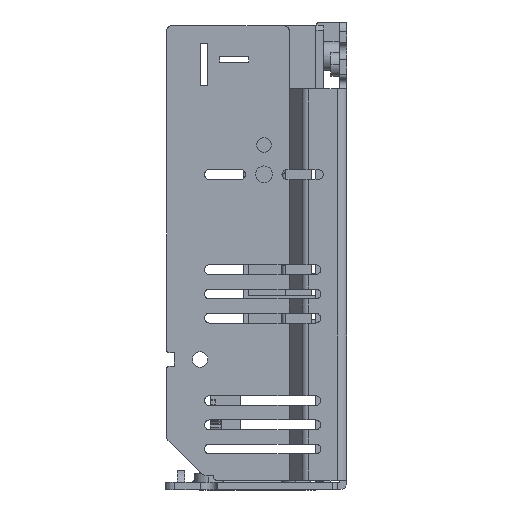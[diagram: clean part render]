
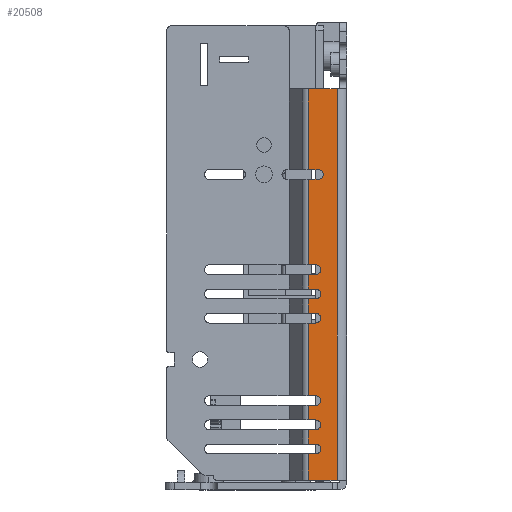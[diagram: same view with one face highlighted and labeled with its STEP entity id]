
A CAD part, left-side view. The second image highlights one B-rep face of the part: STEP entity #20508.
In plain terms, the highlighted planar face has unit normal (-1, 0, 0).
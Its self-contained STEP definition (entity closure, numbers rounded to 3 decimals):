
#2021=DIRECTION('',(0.,0.,1.));
#2022=VECTOR('',#2021,80.7);
#2023=CARTESIAN_POINT('',(-86.5,2.,-46.25));
#2024=LINE('',#2023,#2022);
#2305=DIRECTION('',(0.,1.,0.));
#2306=VECTOR('',#2305,2.055);
#2307=CARTESIAN_POINT('',(-86.5,5.9,17.8));
#2308=LINE('',#2307,#2306);
#2309=DIRECTION('',(0.,-1.,0.));
#2310=VECTOR('',#2309,5.955);
#2311=CARTESIAN_POINT('',(-86.5,7.955,34.45));
#2312=LINE('',#2311,#2310);
#2313=CARTESIAN_POINT('',(-86.5,6.4,-39.85));
#2314=DIRECTION('',(-1.,0.,0.));
#2315=DIRECTION('',(0.,0.,-1.));
#2316=AXIS2_PLACEMENT_3D('',#2313,#2314,#2315);
#2318=DIRECTION('',(0.,1.,0.));
#2319=VECTOR('',#2318,1.555);
#2320=CARTESIAN_POINT('',(-86.5,6.4,-38.85));
#2321=LINE('',#2320,#2319);
#2322=CARTESIAN_POINT('',(-86.5,6.4,-34.85));
#2323=DIRECTION('',(-1.,0.,0.));
#2324=DIRECTION('',(0.,0.,-1.));
#2325=AXIS2_PLACEMENT_3D('',#2322,#2323,#2324);
#2327=DIRECTION('',(0.,1.,0.));
#2328=VECTOR('',#2327,1.555);
#2329=CARTESIAN_POINT('',(-86.5,6.4,-33.85));
#2330=LINE('',#2329,#2328);
#2331=CARTESIAN_POINT('',(-86.5,6.4,-29.85));
#2332=DIRECTION('',(-1.,0.,0.));
#2333=DIRECTION('',(0.,0.,-1.));
#2334=AXIS2_PLACEMENT_3D('',#2331,#2332,#2333);
#2336=DIRECTION('',(0.,1.,0.));
#2337=VECTOR('',#2336,1.555);
#2338=CARTESIAN_POINT('',(-86.5,6.4,-28.85));
#2339=LINE('',#2338,#2337);
#2340=CARTESIAN_POINT('',(-86.5,6.4,-12.85));
#2341=DIRECTION('',(-1.,0.,0.));
#2342=DIRECTION('',(0.,0.,-1.));
#2343=AXIS2_PLACEMENT_3D('',#2340,#2341,#2342);
#2345=DIRECTION('',(0.,1.,0.));
#2346=VECTOR('',#2345,1.555);
#2347=CARTESIAN_POINT('',(-86.5,6.4,-11.85));
#2348=LINE('',#2347,#2346);
#2349=CARTESIAN_POINT('',(-86.5,6.4,-7.85));
#2350=DIRECTION('',(-1.,0.,0.));
#2351=DIRECTION('',(0.,0.,-1.));
#2352=AXIS2_PLACEMENT_3D('',#2349,#2350,#2351);
#2354=DIRECTION('',(0.,1.,0.));
#2355=VECTOR('',#2354,1.555);
#2356=CARTESIAN_POINT('',(-86.5,6.4,-6.85));
#2357=LINE('',#2356,#2355);
#2358=CARTESIAN_POINT('',(-86.5,6.4,-2.85));
#2359=DIRECTION('',(-1.,0.,0.));
#2360=DIRECTION('',(0.,0.,-1.));
#2361=AXIS2_PLACEMENT_3D('',#2358,#2359,#2360);
#2363=DIRECTION('',(0.,1.,0.));
#2364=VECTOR('',#2363,1.555);
#2365=CARTESIAN_POINT('',(-86.5,6.4,-1.85));
#2366=LINE('',#2365,#2364);
#2367=CARTESIAN_POINT('',(-86.5,5.9,16.8));
#2368=DIRECTION('',(-1.,0.,0.));
#2369=DIRECTION('',(0.,0.,-1.));
#2370=AXIS2_PLACEMENT_3D('',#2367,#2368,#2369);
#2384=DIRECTION('',(0.,1.,0.));
#2385=VECTOR('',#2384,2.055);
#2386=CARTESIAN_POINT('',(-86.5,5.9,15.8));
#2387=LINE('',#2386,#2385);
#2402=DIRECTION('',(0.,0.,-1.));
#2403=VECTOR('',#2402,17.65);
#2404=CARTESIAN_POINT('',(-86.5,7.955,15.8));
#2405=LINE('',#2404,#2403);
#2440=DIRECTION('',(0.,1.,0.));
#2441=VECTOR('',#2440,1.555);
#2442=CARTESIAN_POINT('',(-86.5,6.4,-3.85));
#2443=LINE('',#2442,#2441);
#2462=DIRECTION('',(0.,0.,-1.));
#2463=VECTOR('',#2462,3.);
#2464=CARTESIAN_POINT('',(-86.5,7.955,-3.85));
#2465=LINE('',#2464,#2463);
#2496=DIRECTION('',(0.,1.,0.));
#2497=VECTOR('',#2496,1.555);
#2498=CARTESIAN_POINT('',(-86.5,6.4,-8.85));
#2499=LINE('',#2498,#2497);
#2518=DIRECTION('',(0.,0.,-1.));
#2519=VECTOR('',#2518,3.);
#2520=CARTESIAN_POINT('',(-86.5,7.955,-8.85));
#2521=LINE('',#2520,#2519);
#2552=DIRECTION('',(0.,1.,0.));
#2553=VECTOR('',#2552,1.555);
#2554=CARTESIAN_POINT('',(-86.5,6.4,-13.85));
#2555=LINE('',#2554,#2553);
#2574=DIRECTION('',(0.,0.,-1.));
#2575=VECTOR('',#2574,15.);
#2576=CARTESIAN_POINT('',(-86.5,7.955,-13.85));
#2577=LINE('',#2576,#2575);
#2608=DIRECTION('',(0.,1.,0.));
#2609=VECTOR('',#2608,1.555);
#2610=CARTESIAN_POINT('',(-86.5,6.4,-30.85));
#2611=LINE('',#2610,#2609);
#2630=DIRECTION('',(0.,0.,-1.));
#2631=VECTOR('',#2630,3.);
#2632=CARTESIAN_POINT('',(-86.5,7.955,-30.85));
#2633=LINE('',#2632,#2631);
#2664=DIRECTION('',(0.,1.,0.));
#2665=VECTOR('',#2664,1.555);
#2666=CARTESIAN_POINT('',(-86.5,6.4,-35.85));
#2667=LINE('',#2666,#2665);
#2686=DIRECTION('',(0.,0.,-1.));
#2687=VECTOR('',#2686,3.);
#2688=CARTESIAN_POINT('',(-86.5,7.955,-35.85));
#2689=LINE('',#2688,#2687);
#2720=DIRECTION('',(0.,1.,0.));
#2721=VECTOR('',#2720,1.555);
#2722=CARTESIAN_POINT('',(-86.5,6.4,-40.85));
#2723=LINE('',#2722,#2721);
#2738=DIRECTION('',(0.,0.,-1.));
#2739=VECTOR('',#2738,5.4);
#2740=CARTESIAN_POINT('',(-86.5,7.955,-40.85));
#2741=LINE('',#2740,#2739);
#2760=DIRECTION('',(0.,-1.,0.));
#2761=VECTOR('',#2760,5.955);
#2762=CARTESIAN_POINT('',(-86.5,7.955,-46.25));
#2763=LINE('',#2762,#2761);
#4069=DIRECTION('',(0.,0.,-1.));
#4070=VECTOR('',#4069,16.65);
#4071=CARTESIAN_POINT('',(-86.5,7.955,34.45));
#4072=LINE('',#4071,#4070);
#16331=CARTESIAN_POINT('',(-86.5,2.,-46.25));
#16332=VERTEX_POINT('',#16331);
#16333=CARTESIAN_POINT('',(-86.5,2.,34.45));
#16334=VERTEX_POINT('',#16333);
#16859=CARTESIAN_POINT('',(-86.5,7.955,34.45));
#16860=VERTEX_POINT('',#16859);
#16863=CARTESIAN_POINT('',(-86.5,5.9,17.8));
#16864=CARTESIAN_POINT('',(-86.5,7.955,17.8));
#16865=VERTEX_POINT('',#16863);
#16866=VERTEX_POINT('',#16864);
#16867=CARTESIAN_POINT('',(-86.5,7.955,-46.25));
#16868=VERTEX_POINT('',#16867);
#16869=CARTESIAN_POINT('',(-86.5,7.955,-40.85));
#16870=VERTEX_POINT('',#16869);
#16871=CARTESIAN_POINT('',(-86.5,6.4,-40.85));
#16872=VERTEX_POINT('',#16871);
#16873=CARTESIAN_POINT('',(-86.5,6.4,-38.85));
#16874=VERTEX_POINT('',#16873);
#16875=CARTESIAN_POINT('',(-86.5,7.955,-38.85));
#16876=VERTEX_POINT('',#16875);
#16877=CARTESIAN_POINT('',(-86.5,7.955,-35.85));
#16878=VERTEX_POINT('',#16877);
#16879=CARTESIAN_POINT('',(-86.5,6.4,-35.85));
#16880=VERTEX_POINT('',#16879);
#16881=CARTESIAN_POINT('',(-86.5,6.4,-33.85));
#16882=VERTEX_POINT('',#16881);
#16883=CARTESIAN_POINT('',(-86.5,7.955,-33.85));
#16884=VERTEX_POINT('',#16883);
#16885=CARTESIAN_POINT('',(-86.5,7.955,-30.85));
#16886=VERTEX_POINT('',#16885);
#16887=CARTESIAN_POINT('',(-86.5,6.4,-30.85));
#16888=VERTEX_POINT('',#16887);
#16889=CARTESIAN_POINT('',(-86.5,6.4,-28.85));
#16890=VERTEX_POINT('',#16889);
#16891=CARTESIAN_POINT('',(-86.5,7.955,-28.85));
#16892=VERTEX_POINT('',#16891);
#16893=CARTESIAN_POINT('',(-86.5,7.955,-13.85));
#16894=VERTEX_POINT('',#16893);
#16895=CARTESIAN_POINT('',(-86.5,6.4,-13.85));
#16896=VERTEX_POINT('',#16895);
#16897=CARTESIAN_POINT('',(-86.5,6.4,-11.85));
#16898=VERTEX_POINT('',#16897);
#16899=CARTESIAN_POINT('',(-86.5,7.955,-11.85));
#16900=VERTEX_POINT('',#16899);
#16901=CARTESIAN_POINT('',(-86.5,7.955,-8.85));
#16902=VERTEX_POINT('',#16901);
#16903=CARTESIAN_POINT('',(-86.5,6.4,-8.85));
#16904=VERTEX_POINT('',#16903);
#16905=CARTESIAN_POINT('',(-86.5,6.4,-6.85));
#16906=VERTEX_POINT('',#16905);
#16907=CARTESIAN_POINT('',(-86.5,7.955,-6.85));
#16908=VERTEX_POINT('',#16907);
#16909=CARTESIAN_POINT('',(-86.5,7.955,-3.85));
#16910=VERTEX_POINT('',#16909);
#16911=CARTESIAN_POINT('',(-86.5,6.4,-3.85));
#16912=VERTEX_POINT('',#16911);
#16913=CARTESIAN_POINT('',(-86.5,6.4,-1.85));
#16914=VERTEX_POINT('',#16913);
#16915=CARTESIAN_POINT('',(-86.5,7.955,-1.85));
#16916=VERTEX_POINT('',#16915);
#16917=CARTESIAN_POINT('',(-86.5,7.955,15.8));
#16918=VERTEX_POINT('',#16917);
#16919=CARTESIAN_POINT('',(-86.5,5.9,15.8));
#16920=VERTEX_POINT('',#16919);
#20439=CARTESIAN_POINT('',(-86.5,2.,-46.25));
#20440=DIRECTION('',(1.,0.,0.));
#20441=DIRECTION('',(0.,1.,0.));
#20442=AXIS2_PLACEMENT_3D('',#20439,#20440,#20441);
#20443=PLANE('',#20442);
#20445=ORIENTED_EDGE('',*,*,#20444,.T.);
#20447=ORIENTED_EDGE('',*,*,#20446,.F.);
#20448=ORIENTED_EDGE('',*,*,#20429,.T.);
#20449=ORIENTED_EDGE('',*,*,#20208,.F.);
#20451=ORIENTED_EDGE('',*,*,#20450,.F.);
#20453=ORIENTED_EDGE('',*,*,#20452,.F.);
#20455=ORIENTED_EDGE('',*,*,#20454,.F.);
#20457=ORIENTED_EDGE('',*,*,#20456,.T.);
#20459=ORIENTED_EDGE('',*,*,#20458,.T.);
#20461=ORIENTED_EDGE('',*,*,#20460,.F.);
#20463=ORIENTED_EDGE('',*,*,#20462,.F.);
#20465=ORIENTED_EDGE('',*,*,#20464,.T.);
#20467=ORIENTED_EDGE('',*,*,#20466,.T.);
#20469=ORIENTED_EDGE('',*,*,#20468,.F.);
#20471=ORIENTED_EDGE('',*,*,#20470,.F.);
#20473=ORIENTED_EDGE('',*,*,#20472,.T.);
#20475=ORIENTED_EDGE('',*,*,#20474,.T.);
#20477=ORIENTED_EDGE('',*,*,#20476,.F.);
#20479=ORIENTED_EDGE('',*,*,#20478,.F.);
#20481=ORIENTED_EDGE('',*,*,#20480,.T.);
#20483=ORIENTED_EDGE('',*,*,#20482,.T.);
#20485=ORIENTED_EDGE('',*,*,#20484,.F.);
#20487=ORIENTED_EDGE('',*,*,#20486,.F.);
#20489=ORIENTED_EDGE('',*,*,#20488,.T.);
#20491=ORIENTED_EDGE('',*,*,#20490,.T.);
#20493=ORIENTED_EDGE('',*,*,#20492,.F.);
#20495=ORIENTED_EDGE('',*,*,#20494,.F.);
#20497=ORIENTED_EDGE('',*,*,#20496,.T.);
#20499=ORIENTED_EDGE('',*,*,#20498,.T.);
#20501=ORIENTED_EDGE('',*,*,#20500,.F.);
#20503=ORIENTED_EDGE('',*,*,#20502,.F.);
#20505=ORIENTED_EDGE('',*,*,#20504,.T.);
#20506=EDGE_LOOP('',(#20445,#20447,#20448,#20449,#20451,#20453,#20455,#20457,
#20459,#20461,#20463,#20465,#20467,#20469,#20471,#20473,#20475,#20477,#20479,
#20481,#20483,#20485,#20487,#20489,#20491,#20493,#20495,#20497,#20499,#20501,
#20503,#20505));
#20507=FACE_OUTER_BOUND('',#20506,.F.);
#2317=CIRCLE('',#2316,1.);
#2326=CIRCLE('',#2325,1.);
#2335=CIRCLE('',#2334,1.);
#2344=CIRCLE('',#2343,1.);
#2353=CIRCLE('',#2352,1.);
#2362=CIRCLE('',#2361,1.);
#2371=CIRCLE('',#2370,1.);
#20208=EDGE_CURVE('',#16332,#16334,#2024,.T.);
#20429=EDGE_CURVE('',#16860,#16334,#2312,.T.);
#20444=EDGE_CURVE('',#16865,#16866,#2308,.T.);
#20446=EDGE_CURVE('',#16860,#16866,#4072,.T.);
#20450=EDGE_CURVE('',#16868,#16332,#2763,.T.);
#20452=EDGE_CURVE('',#16870,#16868,#2741,.T.);
#20454=EDGE_CURVE('',#16872,#16870,#2723,.T.);
#20456=EDGE_CURVE('',#16872,#16874,#2317,.T.);
#20458=EDGE_CURVE('',#16874,#16876,#2321,.T.);
#20460=EDGE_CURVE('',#16878,#16876,#2689,.T.);
#20462=EDGE_CURVE('',#16880,#16878,#2667,.T.);
#20464=EDGE_CURVE('',#16880,#16882,#2326,.T.);
#20466=EDGE_CURVE('',#16882,#16884,#2330,.T.);
#20468=EDGE_CURVE('',#16886,#16884,#2633,.T.);
#20470=EDGE_CURVE('',#16888,#16886,#2611,.T.);
#20472=EDGE_CURVE('',#16888,#16890,#2335,.T.);
#20474=EDGE_CURVE('',#16890,#16892,#2339,.T.);
#20476=EDGE_CURVE('',#16894,#16892,#2577,.T.);
#20478=EDGE_CURVE('',#16896,#16894,#2555,.T.);
#20480=EDGE_CURVE('',#16896,#16898,#2344,.T.);
#20482=EDGE_CURVE('',#16898,#16900,#2348,.T.);
#20484=EDGE_CURVE('',#16902,#16900,#2521,.T.);
#20486=EDGE_CURVE('',#16904,#16902,#2499,.T.);
#20488=EDGE_CURVE('',#16904,#16906,#2353,.T.);
#20490=EDGE_CURVE('',#16906,#16908,#2357,.T.);
#20492=EDGE_CURVE('',#16910,#16908,#2465,.T.);
#20494=EDGE_CURVE('',#16912,#16910,#2443,.T.);
#20496=EDGE_CURVE('',#16912,#16914,#2362,.T.);
#20498=EDGE_CURVE('',#16914,#16916,#2366,.T.);
#20500=EDGE_CURVE('',#16918,#16916,#2405,.T.);
#20502=EDGE_CURVE('',#16920,#16918,#2387,.T.);
#20504=EDGE_CURVE('',#16920,#16865,#2371,.T.);
#20508=ADVANCED_FACE('',(#20507),#20443,.F.);
